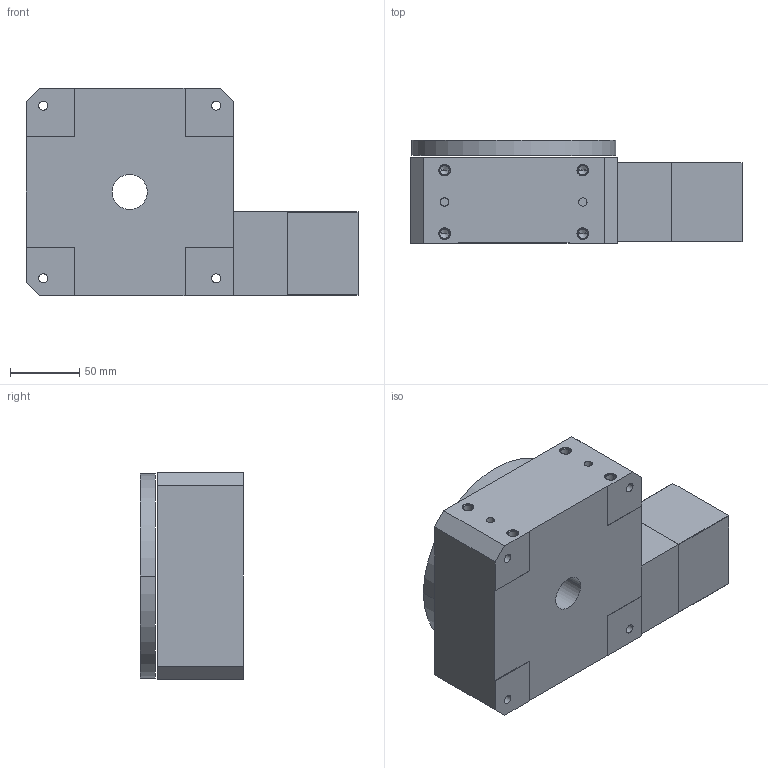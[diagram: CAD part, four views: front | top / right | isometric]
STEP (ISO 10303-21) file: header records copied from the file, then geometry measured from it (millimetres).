
FILE_DESCRIPTION((''),'2;1');
FILE_NAME('R150M7M22E0_ASM','2009-07-02T',('FK20128'),(''),'PRO/ENGINEER BY PARAMETRIC TECHNOLOGY CORPORATION, 2006200','PRO/ENGINEER BY PARAMETRIC TECHNOLOGY CORPORATION, 2006200','');
FILE_SCHEMA(('CONFIG_CONTROL_DESIGN'));
Length unit declared in the file: millimetre
Products named in the file (3): R150M; R150M-M22; R150M7M22E0_ASM
Assembly tree (2 placements, depth 2):
  R150M7M22E0_ASM
    R150M
    R150M-M22
Bounding box: 240.12 x 74.83 x 150 mm (x, y, z)
Volume: 1773457.3 mm3; surface area: 171539.9 mm2
Topology: 3 solids, 19 shells, 223 faces, 543 edges, 356 vertices
Faces by surface type: cylinder 126, plane 71, cone 26
Entity records: 6698 total; most frequent: DIRECTION 1281, CARTESIAN_POINT 1113, ORIENTED_EDGE 990, EDGE_CURVE 527, AXIS2_PLACEMENT_3D 524, VERTEX_POINT 356, EDGE_LOOP 299, CIRCLE 294
